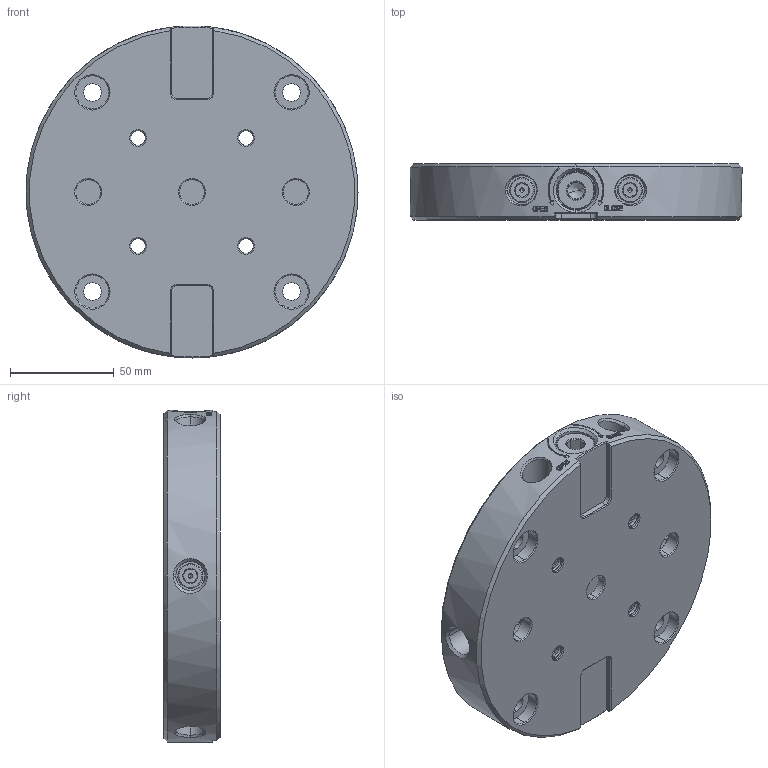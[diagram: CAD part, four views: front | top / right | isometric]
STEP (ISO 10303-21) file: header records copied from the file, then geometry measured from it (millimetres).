
FILE_DESCRIPTION((''),'2;1');
FILE_NAME('TI_WH_52ZPS_RD160NP001_ASM','2026-06-07T18:03:25',('Admin'),(''),'CREO PARAMETRIC BY PTC INC, 2025010','CREO PARAMETRIC BY PTC INC, 2025010','');
FILE_SCHEMA(('CONFIG_CONTROL_DESIGN'));
Length unit declared in the file: millimetre
Products named in the file (16): B11500-00184_O--230001; _20001; B40101-00003_-16420001; B40101-00003_-22240001; B11500-00184_O--280001; B40101-00003_-35590001; F009-0010923B_-1-S0001; B11500-00184_O--420002; B40101-00003_-43800001; B40101-00003_-44520001; B40101-00003_-47930001; B11500-00184_O--480001; NT-S52P160V1_ASM; CAP_1; F009-0035176A_-1-S0001; TI_WH_52ZPS_RD160NP001_ASM
Assembly tree (16 placements, depth 3):
  TI_WH_52ZPS_RD160NP001_ASM
    NT-S52P160V1_ASM
      B11500-00184_O--230001
      _20001
      B40101-00003_-16420001
      B40101-00003_-22240001
      B11500-00184_O--280001
      B40101-00003_-35590001
      F009-0010923B_-1-S0001
      B11500-00184_O--420002
      B40101-00003_-43800001
      B40101-00003_-44520001
      B40101-00003_-47930001
      B11500-00184_O--480001
    CAP_1  x2
    F009-0035176A_-1-S0001
Bounding box: 160 x 27 x 160 mm (x, y, z)
Volume: 469497.2 mm3; surface area: 83684.6 mm2
Topology: 15 solids, 15 shells, 784 faces, 1846 edges, 1123 vertices
Faces by surface type: plane 227, cone 205, cylinder 202, bspline 126, torus 24
Entity records: 44042 total; most frequent: CARTESIAN_POINT 26801, ORIENTED_EDGE 3568, DIRECTION 3391, EDGE_CURVE 1784, AXIS2_PLACEMENT_3D 1320, VERTEX_POINT 1099, EDGE_LOOP 859, FACE_OUTER_BOUND 765
